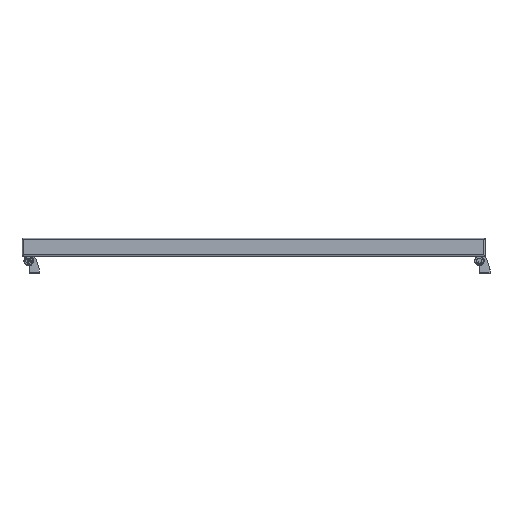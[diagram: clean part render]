
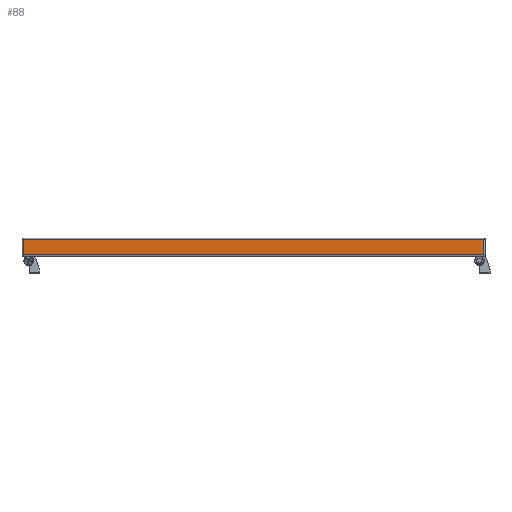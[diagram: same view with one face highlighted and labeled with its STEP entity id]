
A CAD part, left-side view. The second image highlights one B-rep face of the part: STEP entity #88.
In plain terms, the highlighted planar face has unit normal (-1, 0, 0) as drawn and (0, 0, -1) by its records, which use the part's own axes.
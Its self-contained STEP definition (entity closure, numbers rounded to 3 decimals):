
#88 = ADVANCED_FACE ( 'NONE', ( #12552 ), #978, .T. ) ;
#978 = PLANE ( 'NONE',  #21092 ) ;
#1833 = CARTESIAN_POINT ( 'NONE',  ( -35., 19.55, -5.5 ) ) ;
#1892 = CARTESIAN_POINT ( 'NONE',  ( -29.5, 19.55, -5.5 ) ) ;
#1931 = CARTESIAN_POINT ( 'NONE',  ( -29.5, -1779.55, -5.5 ) ) ;
#2412 = CARTESIAN_POINT ( 'NONE',  ( 29.5, -1760., -5.5 ) ) ;
#2554 = VECTOR ( 'NONE', #7394, 1000. ) ;
#2815 = DIRECTION ( 'NONE',  ( 0., 0., -1. ) ) ;
#3524 = CARTESIAN_POINT ( 'NONE',  ( -29.5, -1760., -5.5 ) ) ;
#3772 = EDGE_CURVE ( 'NONE', #18558, #10704, #5664, .T. ) ;
#4050 = EDGE_CURVE ( 'NONE', #6968, #10704, #14726, .T. ) ;
#4145 = ORIENTED_EDGE ( 'NONE', *, *, #15665, .F. ) ;
#4289 = ORIENTED_EDGE ( 'NONE', *, *, #3772, .F. ) ;
#4315 = CARTESIAN_POINT ( 'NONE',  ( 29.5, -1779.55, -5.5 ) ) ;
#5664 = LINE ( 'NONE', #2412, #16599 ) ;
#6552 = VECTOR ( 'NONE', #13695, 1000. ) ;
#6968 = VERTEX_POINT ( 'NONE', #1892 ) ;
#7394 = DIRECTION ( 'NONE',  ( 1., 0., 0. ) ) ;
#7479 = ORIENTED_EDGE ( 'NONE', *, *, #21147, .T. ) ;
#7889 = CARTESIAN_POINT ( 'NONE',  ( -29.5, -1760., -5.5 ) ) ;
#8908 = CARTESIAN_POINT ( 'NONE',  ( -35., -1779.55, -5.5 ) ) ;
#10310 = LINE ( 'NONE', #8908, #2554 ) ;
#10704 = VERTEX_POINT ( 'NONE', #18224 ) ;
#12552 = FACE_OUTER_BOUND ( 'NONE', #20184, .T. ) ;
#12922 = ORIENTED_EDGE ( 'NONE', *, *, #4050, .T. ) ;
#13695 = DIRECTION ( 'NONE',  ( 0., 1., 0. ) ) ;
#14556 = VERTEX_POINT ( 'NONE', #1931 ) ;
#14726 = LINE ( 'NONE', #1833, #16262 ) ;
#14830 = DIRECTION ( 'NONE',  ( 1., 0., 0. ) ) ;
#15665 = EDGE_CURVE ( 'NONE', #14556, #18558, #10310, .T. ) ;
#16262 = VECTOR ( 'NONE', #14830, 1000. ) ;
#16599 = VECTOR ( 'NONE', #18870, 1000. ) ;
#18224 = CARTESIAN_POINT ( 'NONE',  ( 29.5, 19.55, -5.5 ) ) ;
#18558 = VERTEX_POINT ( 'NONE', #4315 ) ;
#18870 = DIRECTION ( 'NONE',  ( 0., 1., 0. ) ) ;
#19487 = DIRECTION ( 'NONE',  ( -1., 0., 0. ) ) ;
#19878 = LINE ( 'NONE', #3524, #6552 ) ;
#20184 = EDGE_LOOP ( 'NONE', ( #4289, #4145, #7479, #12922 ) ) ;
#21092 = AXIS2_PLACEMENT_3D ( 'NONE', #7889, #2815, #19487 ) ;
#21147 = EDGE_CURVE ( 'NONE', #14556, #6968, #19878, .T. ) ;
